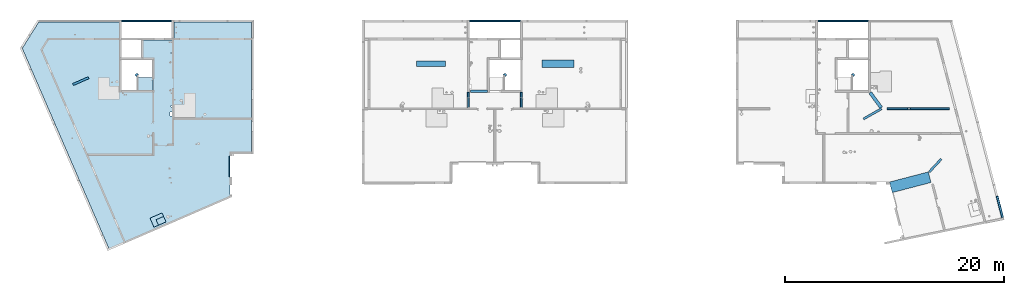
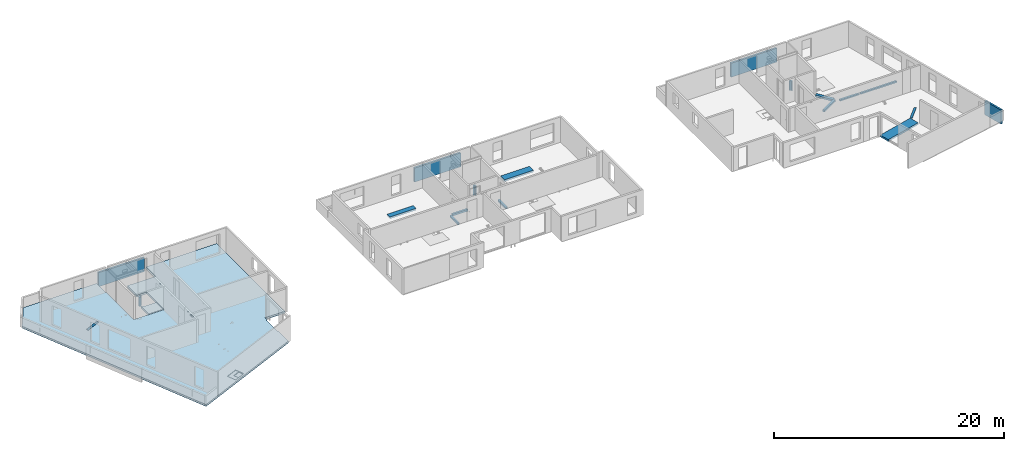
# One storey, part 1 of 28: 16 beams, 3 columns, 2 slabs, 6 openings.
"""IFC2X3 building model written with IfcOpenShell, lengths in centimetres."""

from ifc_helpers import new_model, entity, si_unit, converted_unit, derived_unit, direction, frame, frame_2d, origin, origin_2d_with_axis, place, context, subcontext, project, spatial, polyline, circle_curve, parameter, trimmed, segment, composite_curve, rectangle, circle, outline, extrude, clip, halfspace, face_set, faceted_brep, surface_model, source, transform, mapped, material, layer, layer_set, layer_usage, type_object, type_shapes, element, save


model = new_model("IFC2X3")

# Units and contexts
model_context = context("Model", 3, precision=0.001, world=origin(), true_north=direction((6.12303176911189e-17, 1.0)))
body_context = subcontext(model_context, "Body", "Model", "MODEL_VIEW")
ifc_project = project(units=[si_unit("LENGTHUNIT", "METRE", prefix="CENTI"), si_unit("AREAUNIT", "SQUARE_METRE"), si_unit("VOLUMEUNIT", "CUBIC_METRE"), converted_unit("PLANEANGLEUNIT", "DEGREE", entity("IfcRatioMeasure", 0.0174532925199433), si_unit("PLANEANGLEUNIT", "RADIAN"), dimensions=[0, 0, 0, 0, 0, 0, 0]), si_unit("MASSUNIT", "GRAM", prefix="KILO"), derived_unit("MASSDENSITYUNIT", [(si_unit("MASSUNIT", "GRAM", prefix="KILO"), 1), (si_unit("LENGTHUNIT", "METRE"), -3)]), si_unit("TIMEUNIT", "SECOND"), si_unit("FREQUENCYUNIT", "HERTZ"), si_unit("THERMODYNAMICTEMPERATUREUNIT", "DEGREE_CELSIUS"), derived_unit("THERMALTRANSMITTANCEUNIT", [(si_unit("MASSUNIT", "GRAM", prefix="KILO"), 1), (si_unit("THERMODYNAMICTEMPERATUREUNIT", "KELVIN"), -1), (si_unit("TIMEUNIT", "SECOND"), -3)]), derived_unit("VOLUMETRICFLOWRATEUNIT", [(si_unit("LENGTHUNIT", "METRE"), 3), (si_unit("TIMEUNIT", "SECOND"), -1)]), si_unit("ELECTRICCURRENTUNIT", "AMPERE"), si_unit("ELECTRICVOLTAGEUNIT", "VOLT"), si_unit("POWERUNIT", "WATT"), si_unit("FORCEUNIT", "NEWTON"), si_unit("ILLUMINANCEUNIT", "LUX"), si_unit("LUMINOUSFLUXUNIT", "LUMEN"), si_unit("LUMINOUSINTENSITYUNIT", "CANDELA"), derived_unit("USERDEFINED", [(si_unit("MASSUNIT", "GRAM", prefix="KILO"), -1), (si_unit("LENGTHUNIT", "METRE"), -2), (si_unit("TIMEUNIT", "SECOND"), 3), (si_unit("LUMINOUSFLUXUNIT", "LUMEN"), 1)]), derived_unit("LINEARVELOCITYUNIT", [(si_unit("LENGTHUNIT", "METRE"), 1), (si_unit("TIMEUNIT", "SECOND"), -1)]), si_unit("PRESSUREUNIT", "PASCAL"), derived_unit("USERDEFINED", [(si_unit("LENGTHUNIT", "METRE"), -2), (si_unit("MASSUNIT", "GRAM", prefix="KILO"), 1), (si_unit("TIMEUNIT", "SECOND"), -2)])], contexts=[model_context])

# Site, building, storey
site_placement = place(None, origin())
site = spatial("IfcSite", under=ifc_project, at=site_placement, Name="Default", CompositionType="ELEMENT")
building_placement = place(site_placement, origin())
building = spatial("IfcBuilding", under=site, at=building_placement, Name="CAGE 03", CompositionType="ELEMENT")
storey_placement = place(building_placement, frame((0.0, 0.0, 1420.0)))
storey = spatial("IfcBuildingStorey", under=building, at=storey_placement, Name="R+5", CompositionType="ELEMENT", Elevation=1420.0)

# Columns
ifc_material_1 = material(Name="Béton, panneaux préfa 30/37")
column_type_1 = type_object("IfcColumnType", Name="Ø30", PredefinedType="COLUMN", material=ifc_material_1)
shared_shape_1 = source(origin(), body_context, "Body", "SweptSolid", [
    extrude(outline(composite_curve([segment(trimmed(circle_curve(frame_2d((5.0, -5.0), x_axis=(0.0, 1.0)), 15.0), [parameter(89.9999999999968)], [parameter(0.0)], True, "PARAMETER"), True, "CONTINUOUS"), segment(polyline([(5.0, 10.0), (5.0, -5.0)]), True, "CONTINUOUS"), segment(polyline([(5.0, -5.0), (-10.0, -5.0)]), True, "CONTINUOUS")], self_intersect=False)), frame((3818.36582014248, 4786.66066607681, 1420.0), z_axis=(0.0, 0.0, -1.0), x_axis=(0.0, 1.0, 0.0)), (0.0, 0.0, -1.0), 80.0000000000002),
    extrude(outline(composite_curve([segment(trimmed(circle_curve(frame_2d((5.0, -5.0), x_axis=(0.0, 1.0)), 15.0), [parameter(89.9999999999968)], [parameter(0.0)], True, "PARAMETER"), True, "CONTINUOUS"), segment(polyline([(5.0, 10.0), (5.0, -5.0)]), True, "CONTINUOUS"), segment(polyline([(5.0, -5.0), (-10.0, -5.0)]), True, "CONTINUOUS")], self_intersect=False)), frame((3818.36582014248, 4786.66066607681, 1500.0), z_axis=(0.0, 0.0, -1.0), x_axis=(0.0, 1.0, 0.0)), (0.0, 0.0, -1.0), 20.0),
])
type_shapes(column_type_1, [shared_shape_1])
column_1_placement = place(storey_placement, frame((0.0, 0.0, -1420.0)))
element("IfcColumn", 1, at=column_1_placement, inside=storey, type_object=column_type_1, material=ifc_material_1, Name="BBGO-Poteau circ:Ø30", ObjectType="Ø30", context=body_context, shape_type="MappedRepresentation", body=[
    mapped(shared_shape_1, transform((0.0, 0.0, 0.0), scale=1.0)),
])
column_type_2 = type_object("IfcColumnType", Name="Ø30", PredefinedType="COLUMN", material=ifc_material_1)
shared_shape_2 = source(origin(), body_context, "Body", "SweptSolid", [
    extrude(outline(composite_curve([segment(trimmed(circle_curve(frame_2d((5.0, -5.0), x_axis=(0.0, 1.0)), 14.9999999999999), [parameter(89.9999999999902)], [parameter(0.0)], True, "PARAMETER"), True, "CONTINUOUS"), segment(polyline([(5.0, 10.0), (5.0, -5.0)]), True, "CONTINUOUS"), segment(polyline([(5.0, -5.0), (-10.0, -5.0)]), True, "CONTINUOUS")], self_intersect=False)), frame((7167.36582014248, 4786.66066607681, 1420.0), z_axis=(0.0, 0.0, -1.0), x_axis=(1.0, 0.0, 0.0)), (0.0, 0.0, -1.0), 80.0000000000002),
    extrude(outline(composite_curve([segment(trimmed(circle_curve(frame_2d((5.0, -5.0), x_axis=(0.0, 1.0)), 14.9999999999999), [parameter(89.9999999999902)], [parameter(0.0)], True, "PARAMETER"), True, "CONTINUOUS"), segment(polyline([(5.0, 10.0), (5.0, -5.0)]), True, "CONTINUOUS"), segment(polyline([(5.0, -5.0), (-10.0, -5.0)]), True, "CONTINUOUS")], self_intersect=False)), frame((7167.36582014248, 4786.66066607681, 1500.0), z_axis=(0.0, 0.0, -1.0), x_axis=(1.0, 0.0, 0.0)), (0.0, 0.0, -1.0), 20.0),
])
type_shapes(column_type_2, [shared_shape_2])
column_2_placement = place(storey_placement, frame((0.0, 0.0, -1420.0)))
element("IfcColumn", 2, at=column_2_placement, inside=storey, type_object=column_type_2, material=ifc_material_1, Name="BBGO-Poteau circ:Ø30", ObjectType="Ø30", context=body_context, shape_type="MappedRepresentation", body=[
    mapped(shared_shape_2, transform((0.0, 0.0, 0.0), scale=1.0)),
])
column_type_3 = type_object("IfcColumnType", Name="Ø30", PredefinedType="COLUMN", material=ifc_material_1)
shared_shape_3 = source(origin(), body_context, "Body", "SweptSolid", [
    extrude(outline(composite_curve([segment(trimmed(circle_curve(frame_2d((5.0, -5.0), x_axis=(0.0, 1.0)), 14.9999999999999), [parameter(90.0000000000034)], [parameter(0.0)], True, "PARAMETER"), True, "CONTINUOUS"), segment(polyline([(5.0, 10.0), (5.0, -5.0)]), True, "CONTINUOUS"), segment(polyline([(5.0, -5.0), (-10.0, -5.0)]), True, "CONTINUOUS")], self_intersect=False)), frame((10344.3658201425, 4786.66066607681, 1420.0), z_axis=(0.0, 0.0, -1.0), x_axis=(1.0, 0.0, 0.0)), (0.0, 0.0, -1.0), 80.0000000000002),
    extrude(outline(composite_curve([segment(trimmed(circle_curve(frame_2d((5.0, -5.0), x_axis=(0.0, 1.0)), 14.9999999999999), [parameter(90.0000000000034)], [parameter(0.0)], True, "PARAMETER"), True, "CONTINUOUS"), segment(polyline([(5.0, 10.0), (5.0, -5.0)]), True, "CONTINUOUS"), segment(polyline([(5.0, -5.0), (-10.0, -5.0)]), True, "CONTINUOUS")], self_intersect=False)), frame((10344.3658201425, 4786.66066607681, 1500.0), z_axis=(0.0, 0.0, -1.0), x_axis=(1.0, 0.0, 0.0)), (0.0, 0.0, -1.0), 20.0),
])
type_shapes(column_type_3, [shared_shape_3])
column_3_placement = place(storey_placement, frame((0.0, 0.0, -1420.0)))
element("IfcColumn", 3, at=column_3_placement, inside=storey, type_object=column_type_3, material=ifc_material_1, Name="BBGO-Poteau circ:Ø30", ObjectType="Ø30", context=body_context, shape_type="MappedRepresentation", body=[
    mapped(shared_shape_3, transform((0.0, 0.0, 0.0), scale=1.0)),
])

# Beams
ifc_material_2 = material(Name="Béton, C25/30")
beam_type_1 = type_object("IfcBeamType", Name="BBGO-Poutre rect:18x149ht", PredefinedType="BEAM")
beam_1_placement = place(storey_placement, frame((3663.36582014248, 5284.66066607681, 0.0)))
element("IfcBeam", 4, at=beam_1_placement, inside=storey, type_object=beam_type_1, material=ifc_material_2, Name="BBGO-Poutre rect:18x149ht", ObjectType="BBGO-Poutre rect:18x149ht", context=body_context, shape_type="SweptSolid", body=[
    extrude(rectangle(XDim=149.0, YDim=17.9999999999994, at=frame_2d((0.0, 1.73283609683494e-12), x_axis=(1.0, 0.0))), frame((9.0, 0.0, 30.4999999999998), z_axis=(1.0, 0.0, 0.0), x_axis=(0.0, 0.0, -1.0)), (0.0, 0.0, 1.0), 461.999999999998),
])
beam_2_placement = place(storey_placement, frame((6840.36582014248, 5284.6606660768, 0.0)))
element("IfcBeam", 5, at=beam_2_placement, inside=storey, type_object=beam_type_1, material=ifc_material_2, Name="BBGO-Poutre rect:18x149ht", ObjectType="BBGO-Poutre rect:18x149ht", context=body_context, shape_type="SweptSolid", body=[
    extrude(rectangle(XDim=149.0, YDim=17.9999999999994, at=frame_2d((0.0, 1.73283609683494e-12), x_axis=(1.0, 0.0))), frame((9.0, 0.0, 30.4999999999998), z_axis=(1.0, 0.0, 0.0), x_axis=(0.0, 0.0, -1.0)), (0.0, 0.0, 1.0), 464.0),
])
beam_3_placement = place(storey_placement, frame((10019.3658201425, 5284.66066607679, 0.0)))
element("IfcBeam", 6, at=beam_3_placement, inside=storey, type_object=beam_type_1, material=ifc_material_2, Name="BBGO-Poutre rect:18x149ht", ObjectType="BBGO-Poutre rect:18x149ht", context=body_context, shape_type="SweptSolid", body=[
    extrude(rectangle(XDim=149.0, YDim=17.9999999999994, at=frame_2d((0.0, 1.73283609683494e-12), x_axis=(1.0, 0.0))), frame((9.0, 0.0, 30.4999999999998), z_axis=(1.0, 0.0, 0.0), x_axis=(0.0, 0.0, -1.0)), (0.0, 0.0, 1.0), 462.000000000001),
])
beam_4_placement = place(storey_placement, frame((11662.375264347, 3693.62398338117, 0.0), z_axis=(0.0, 0.0, 1.0), x_axis=(0.252679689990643, -0.96754998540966, 0.0)))
element("IfcBeam", 7, at=beam_4_placement, inside=storey, type_object=beam_type_1, material=ifc_material_2, Name="BBGO-Poutre rect:18x149ht", ObjectType="BBGO-Poutre rect:18x149ht", context=body_context, shape_type="Clipping", body=[
    clip(extrude(rectangle(XDim=149.0, YDim=18.0000000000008, at=frame_2d((0.0, 2.73381317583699e-12), x_axis=(1.0, 0.0))), frame((9.0, 0.0, 30.4999999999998), z_axis=(1.0, 0.0, 0.0), x_axis=(0.0, 0.0, -1.0)), (0.0, 0.0, 1.0), 204.587793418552), halfspace(frame((171.771995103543, -791.479812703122, -270.0), z_axis=(0.998638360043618, -0.0521672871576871, 0.0), x_axis=(-0.0521672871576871, -0.998638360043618, 0.0)), False)),
])
beam_type_2 = type_object("IfcBeamType", Name="20x20ht", PredefinedType="BEAM", material=ifc_material_2)
shared_shape_4 = source(origin(), body_context, "Body", "SurfaceModel", [
    surface_model("IfcFaceBasedSurfaceModel", [(0.0, 18.3053501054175, 20.0), (8.05693226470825, 0.0, 20.0), (8.05693226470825, 0.0, 0.0), (0.0, 18.3053501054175, 0.0), (142.0, 80.8053501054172, 20.0), (150.056932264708, 62.5000000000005, 20.0), (150.056932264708, 62.5000000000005, 0.0), (142.0, 80.8053501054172, 0.0)], [face_set([[[0, 1, 2, 3]], [[4, 5, 6, 7]], [[3, 0, 4, 7]], [[2, 3, 7, 6]], [[1, 2, 6, 5]], [[0, 1, 5, 4]]])]),
])
type_shapes(beam_type_2, [shared_shape_4])
beam_5_placement = place(storey_placement, frame((3227.33735401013, 4695.5079910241, -20.0)))
element("IfcBeam", 8, at=beam_5_placement, inside=storey, type_object=beam_type_2, material=ifc_material_2, Name="BBGO-Poutre rect:20x20ht", ObjectType="20x20ht", context=body_context, shape_type="MappedRepresentation", body=[
    mapped(shared_shape_4, transform((0.0, 0.0, 0.0), scale=1.0)),
])
beam_type_3 = type_object("IfcBeamType", Name="70x20ht", PredefinedType="BEAM", material=ifc_material_2)
shared_shape_5 = source(origin(), body_context, "Body", "Brep", [
    faceted_brep([(291.5, 0.0, 20.0), (291.5, 0.0, 0.0), (291.5, 70.0, 0.0), (291.5, 70.0, 20.0), (0.0, 0.0, 20.0), (0.0, 70.0, 20.0), (0.0, 70.0, 0.0), (0.0, 0.0, 0.0)], [[[0, 1, 2, 3]], [[4, 5, 6, 7]], [[1, 0, 4, 7]], [[2, 1, 7, 6]], [[3, 2, 6, 5]], [[0, 3, 5, 4]]]),
])
type_shapes(beam_type_3, [shared_shape_5])
beam_6_placement = place(storey_placement, frame((7512.36582014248, 4860.6606660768, -20.0)))
element("IfcBeam", 9, at=beam_6_placement, inside=storey, type_object=beam_type_3, material=ifc_material_2, Name="BBGO-Poutre rect:70x20ht", ObjectType="70x20ht", context=body_context, shape_type="MappedRepresentation", body=[
    mapped(shared_shape_5, transform((0.0, 0.0, 0.0), scale=1.0)),
])
beam_type_4 = type_object("IfcBeamType", Name="50x20ht", PredefinedType="BEAM", material=ifc_material_2)
shared_shape_6 = source(origin(), body_context, "Body", "Brep", [
    faceted_brep([(263.0, 0.0, 20.0), (263.0, 0.0, 0.0), (263.0, 50.0, 0.0), (263.0, 50.0, 20.0), (0.0, 0.0, 20.0), (0.0, 50.0, 20.0), (0.0, 50.0, 0.0), (0.0, 0.0, 0.0)], [[[0, 1, 2, 3]], [[4, 5, 6, 7]], [[1, 0, 4, 7]], [[2, 1, 7, 6]], [[3, 2, 6, 5]], [[0, 3, 5, 4]]]),
])
type_shapes(beam_type_4, [shared_shape_6])
beam_7_placement = place(storey_placement, frame((6367.36582014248, 4870.6606660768, -20.0)))
element("IfcBeam", 10, at=beam_7_placement, inside=storey, type_object=beam_type_4, material=ifc_material_2, Name="BBGO-Poutre rect:50x20ht", ObjectType="50x20ht", context=body_context, shape_type="MappedRepresentation", body=[
    mapped(shared_shape_6, transform((0.0, 0.0, 0.0), scale=1.0)),
])
beam_type_5 = type_object("IfcBeamType", Name="18x20ht", PredefinedType="BEAM", material=ifc_material_2)
shared_shape_7 = source(origin(), body_context, "Body", "Brep", [
    faceted_brep([(18.0, 140.0, 20.0), (18.0, 140.0, 0.0), (0.0, 140.0, 0.0), (0.0, 140.0, 20.0), (18.0, 0.0, 20.0), (0.0, 0.0, 20.0), (0.0, 0.0, 0.0), (18.0, 0.0, 0.0)], [[[0, 1, 2, 3]], [[4, 5, 6, 7]], [[1, 0, 4, 7]], [[2, 1, 7, 6]], [[3, 2, 6, 5]], [[0, 3, 5, 4]]]),
])
type_shapes(beam_type_5, [shared_shape_7])
beam_8_placement = place(storey_placement, frame((7313.36582014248, 4492.6606660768, -20.0)))
element("IfcBeam", 11, at=beam_8_placement, inside=storey, type_object=beam_type_5, material=ifc_material_2, Name="BBGO-Poutre rect:18x20ht", ObjectType="18x20ht", context=body_context, shape_type="MappedRepresentation", body=[
    mapped(shared_shape_7, transform((0.0, 0.0, 0.0), scale=1.0)),
])
beam_type_6 = type_object("IfcBeamType", Name="18x20ht", PredefinedType="BEAM", material=ifc_material_2)
shared_shape_8 = source(origin(), body_context, "Body", "Brep", [
    faceted_brep([(18.0, 140.0, 20.0), (18.0, 140.0, 0.0), (0.0, 140.0, 0.0), (0.0, 140.0, 20.0), (18.0, 0.0, 20.0), (0.0, 0.0, 20.0), (0.0, 0.0, 0.0), (18.0, 0.0, 0.0)], [[[0, 1, 2, 3]], [[4, 5, 6, 7]], [[1, 0, 4, 7]], [[2, 1, 7, 6]], [[3, 2, 6, 5]], [[0, 3, 5, 4]]]),
])
type_shapes(beam_type_6, [shared_shape_8])
beam_9_placement = place(storey_placement, frame((6831.36582014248, 4492.6606660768, -20.0)))
element("IfcBeam", 12, at=beam_9_placement, inside=storey, type_object=beam_type_6, material=ifc_material_2, Name="BBGO-Poutre rect:18x20ht", ObjectType="18x20ht", context=body_context, shape_type="MappedRepresentation", body=[
    mapped(shared_shape_8, transform((0.0, 0.0, 0.0), scale=1.0)),
])
beam_type_7 = type_object("IfcBeamType", Name="30x20ht", PredefinedType="BEAM", material=ifc_material_2)
shared_shape_9 = source(origin(), body_context, "Body", "SurfaceModel", [
    surface_model("IfcFaceBasedSurfaceModel", [(100.827219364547, 0.0, 20.0), (100.827219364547, 0.0, 0.0), (125.046144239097, 17.7043406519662, 0.0), (125.046144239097, 17.7043406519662, 20.0), (0.0, 137.928144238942, 20.0), (24.2189248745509, 155.632484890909, 20.0), (24.2189248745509, 155.632484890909, 0.0), (0.0, 137.928144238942, 0.0)], [face_set([[[0, 1, 2, 3]], [[4, 5, 6, 7]], [[1, 7, 4, 0]], [[2, 1, 7, 6]], [[3, 2, 6, 5]], [[0, 3, 5, 4]]])]),
])
type_shapes(beam_type_7, [shared_shape_9])
beam_10_placement = place(storey_placement, frame((10495.3500244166, 4483.80849575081, -20.0)))
element("IfcBeam", 13, at=beam_10_placement, inside=storey, type_object=beam_type_7, material=ifc_material_2, Name="BBGO-Poutre rect:30x20ht", ObjectType="30x20ht", context=body_context, shape_type="MappedRepresentation", body=[
    mapped(shared_shape_9, transform((0.0, 0.0, 0.0), scale=1.0)),
])
beam_type_8 = type_object("IfcBeamType", Name="BBGO-Poutre rect:18x35ht", PredefinedType="BEAM")
beam_11_placement = place(storey_placement, frame((10661.8658201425, 4474.50191607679, -35.0)))
element("IfcBeam", 14, at=beam_11_placement, inside=storey, type_object=beam_type_8, material=ifc_material_2, Name="BBGO-Poutre rect:18x35ht", ObjectType="BBGO-Poutre rect:18x35ht", context=body_context, shape_type="Brep", body=[
    faceted_brep([(195.141101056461, 0.158750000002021, 0.0), (195.141101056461, 0.158750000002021, 15.0), (0.0, 0.158750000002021, 15.0), (0.0, 0.158750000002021, 0.0), (192.531752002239, 1.98633619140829, 0.0), (0.0, 18.1587500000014, 0.0), (195.141101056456, 18.1587500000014, 0.0), (192.531752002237, 16.3311638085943, 0.0), (190.629594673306, 13.775665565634, 0.0), (189.627674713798, 10.7516070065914, 0.0), (189.627674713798, 7.56589299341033, 0.0), (190.629594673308, 4.54183443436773, 0.0), (195.141101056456, 18.1587500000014, 15.0), (0.0, 18.1587500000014, 15.0), (192.531752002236, 16.3311638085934, 15.0), (190.629594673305, 13.7756655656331, 15.0), (189.627674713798, 10.7516070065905, 15.0), (189.627674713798, 7.56589299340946, 15.0), (190.629594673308, 4.54183443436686, 15.0), (192.531752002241, 1.98633619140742, 15.0)], [[[0, 1, 2, 3]], [[4, 0, 3, 5, 6, 7, 8, 9, 10, 11]], [[12, 6, 5, 13]], [[12, 14, 7, 6]], [[15, 16, 9, 8]], [[14, 15, 8, 7]], [[16, 17, 10, 9]], [[17, 18, 11, 10]], [[19, 1, 0, 4]], [[18, 19, 4, 11]], [[13, 2, 1, 19, 18, 17, 16, 15, 14, 12]], [[3, 2, 13, 5]]]),
])
beam_12_placement = place(storey_placement, frame((10865.565969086, 4474.50191607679, -35.0)))
element("IfcBeam", 15, at=beam_12_placement, inside=storey, type_object=beam_type_8, material=ifc_material_2, Name="BBGO-Poutre rect:18x35ht", ObjectType="BBGO-Poutre rect:18x35ht", context=body_context, shape_type="Brep", body=[
    faceted_brep([(364.79985105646, 0.158750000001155, 0.0), (364.79985105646, 0.158750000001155, 15.0), (0.158749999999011, 0.158750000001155, 15.0), (0.158750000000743, 0.158750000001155, 0.0), (2.76809905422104, 1.98633619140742, 0.0), (4.67025638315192, 4.54183443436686, 0.0), (5.67217634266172, 7.56589299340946, 0.0), (5.67217634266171, 10.7516070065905, 0.0), (4.67025638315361, 13.7756655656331, 0.0), (2.76809905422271, 16.3311638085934, 0.0), (0.15875000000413, 18.1587500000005, 0.0), (364.79985105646, 18.1587500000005, 0.0), (364.79985105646, 18.1587500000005, 15.0), (0.15875000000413, 18.1587500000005, 15.0), (2.76809905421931, 1.98633619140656, 15.0), (4.67025638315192, 4.541834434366, 15.0), (5.67217634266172, 7.5658929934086, 15.0), (5.67217634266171, 10.7516070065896, 15.0), (4.67025638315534, 13.7756655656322, 15.0), (2.76809905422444, 16.3311638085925, 15.0)], [[[0, 1, 2, 3]], [[0, 3, 4, 5, 6, 7, 8, 9, 10, 11]], [[12, 11, 10, 13]], [[4, 3, 2, 14]], [[15, 16, 6, 5]], [[5, 4, 14, 15]], [[16, 17, 7, 6]], [[17, 18, 8, 7]], [[19, 13, 10, 9]], [[18, 19, 9, 8]], [[18, 17, 16, 15, 14, 2, 1, 12, 13, 19]], [[0, 11, 12, 1]]]),
])
beam_type_9 = type_object("IfcBeamType", Name="20x20ht", PredefinedType="BEAM", material=ifc_material_2)
shared_shape_10 = source(origin(), body_context, "Body", "SurfaceModel", [
    surface_model("IfcFaceBasedSurfaceModel", [(123.564687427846, 117.609640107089, 20.0), (123.564687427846, 117.609640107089, 0.0), (108.888920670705, 131.197203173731, 0.0), (108.888920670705, 131.197203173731, 20.0), (14.6757667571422, 0.0, 20.0), (14.6757667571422, 0.0, 0.0), (0.0, 13.5875630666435, 0.0), (0.0, 13.5875630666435, 20.0)], [face_set([[[0, 1, 2, 3]], [[4, 5, 6, 7]], [[1, 0, 4, 5]], [[2, 1, 5, 6]], [[3, 2, 6, 7]], [[0, 3, 7, 4]]])]),
])
type_shapes(beam_type_9, [shared_shape_10])
beam_13_placement = place(storey_placement, frame((11039.6390160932, 3900.25724443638, -20.0)))
element("IfcBeam", 16, at=beam_13_placement, inside=storey, type_object=beam_type_9, material=ifc_material_2, Name="BBGO-Poutre rect:20x20ht", ObjectType="20x20ht", context=body_context, shape_type="MappedRepresentation", body=[
    mapped(shared_shape_10, transform((0.0, 0.0, 0.0), scale=1.0)),
])
beam_type_10 = type_object("IfcBeamType", Name="100x20ht", PredefinedType="BEAM", material=ifc_material_2)
shared_shape_11 = source(origin(), body_context, "Body", "SurfaceModel", [
    surface_model("IfcFaceBasedSurfaceModel", [(379.391263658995, 92.4807665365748, 20.0), (379.391263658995, 92.4807665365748, 0.0), (354.123294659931, 189.235765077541, 0.0), (354.123294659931, 189.235765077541, 20.0), (25.2679689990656, 0.0, 20.0), (25.2679689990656, 0.0, 0.0), (0.0, 96.7549985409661, 0.0), (0.0, 96.7549985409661, 20.0)], [face_set([[[0, 1, 2, 3]], [[4, 5, 6, 7]], [[1, 0, 4, 5]], [[2, 1, 5, 6]], [[3, 2, 6, 7]], [[0, 3, 7, 4]]])]),
])
type_shapes(beam_type_10, [shared_shape_11])
beam_14_placement = place(storey_placement, frame((10683.5281497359, 3717.90566753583, -20.0)))
element("IfcBeam", 17, at=beam_14_placement, inside=storey, type_object=beam_type_10, material=ifc_material_2, Name="BBGO-Poutre rect:100x20ht", ObjectType="100x20ht", context=body_context, shape_type="MappedRepresentation", body=[
    mapped(shared_shape_11, transform((0.0, 0.0, 0.0), scale=1.0)),
])
beam_type_11 = type_object("IfcBeamType", Name="20x20ht", PredefinedType="BEAM", material=ifc_material_2)
shared_shape_12 = source(origin(), body_context, "Body", "SurfaceModel", [
    surface_model("IfcFaceBasedSurfaceModel", [(174.257652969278, 93.0, 20.0), (174.257652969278, 93.0, 0.0), (164.410714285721, 110.407980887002, 0.0), (164.410714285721, 110.407980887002, 20.0), (9.84693868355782, 0.0, 20.0), (9.84693868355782, 0.0, 0.0), (0.0, 17.4079808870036, 0.0), (0.0, 17.4079808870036, 20.0)], [face_set([[[0, 1, 2, 3]], [[4, 5, 6, 7]], [[1, 0, 4, 5]], [[2, 1, 5, 6]], [[3, 2, 6, 7]], [[0, 3, 7, 4]]])]),
])
type_shapes(beam_type_11, [shared_shape_12])
beam_15_placement = place(storey_placement, frame((10441.4423508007, 4381.95667563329, -20.0)))
element("IfcBeam", 18, at=beam_15_placement, inside=storey, type_object=beam_type_11, material=ifc_material_2, Name="BBGO-Poutre rect:20x20ht", ObjectType="20x20ht", context=body_context, shape_type="MappedRepresentation", body=[
    mapped(shared_shape_12, transform((0.0, 0.0, 0.0), scale=1.0)),
])
beam_type_12 = type_object("IfcBeamType", Name="20x20ht", PredefinedType="BEAM", material=ifc_material_2)
shared_shape_13 = source(origin(), body_context, "Body", "Brep", [
    faceted_brep([(154.0, 0.0, 20.0), (154.0, 0.0, 0.0), (154.0, 20.0, 0.0), (154.0, 20.0, 20.0), (0.0, 0.0, 20.0), (0.0, 20.0, 20.0), (0.0, 20.0, 0.0), (0.0, 0.0, 0.0)], [[[0, 1, 2, 3]], [[4, 5, 6, 7]], [[1, 0, 4, 7]], [[2, 1, 7, 6]], [[3, 2, 6, 5]], [[0, 3, 5, 4]]]),
])
type_shapes(beam_type_12, [shared_shape_13])
beam_16_placement = place(storey_placement, frame((6859.36582014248, 4632.6606660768, -20.0)))
element("IfcBeam", 19, at=beam_16_placement, inside=storey, type_object=beam_type_12, material=ifc_material_2, Name="BBGO-Poutre rect:20x20ht", ObjectType="20x20ht", context=body_context, shape_type="MappedRepresentation", body=[
    mapped(shared_shape_13, transform((0.0, 0.0, 0.0), scale=1.0)),
])

# Slab, openings
ifc_layer = layer(ifc_material_2, 20.0)
ifc_layer_set = layer_set([ifc_layer], Name="Sol:Dalle Béton - 20 cm")
ifc_layer_usage_1 = layer_usage(ifc_layer_set, "AXIS3", "POSITIVE", 0.0)
slab_1_placement = place(storey_placement, frame((2767.3065813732, 3205.79894432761, -20.0)))
slab_1 = element("IfcSlab", 20, at=slab_1_placement, inside=storey, material=ifc_layer_usage_1, Name="Sol:Dalle Béton - 20 cm", ObjectType="Sol:Dalle Béton - 20 cm", PredefinedType="FLOOR", context=body_context, shape_type="SweptSolid", body=[
    extrude(outline(polyline([(159.470380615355, 1034.9308608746), (159.470380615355, 869.930860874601), (153.970380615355, 869.930860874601), (153.970380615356, 397.430860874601), (-153.029619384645, 397.430860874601), (-153.029619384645, 704.430860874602), (-53.5296193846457, 704.430860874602), (-53.5296193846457, 869.9308608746), (-338.529619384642, 869.9308608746), (-338.529619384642, 1034.9308608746), (-1046.52961938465, 1034.9308608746), (-1046.52961938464, -150.569139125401), (-848.529619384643, -150.569139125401), (-848.529619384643, -557.490172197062), (254.908165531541, -1034.9308608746), (1046.52961938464, 794.626284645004), (895.631312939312, 1034.9308608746), (159.470380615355, 1034.9308608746)])), frame((1046.52961938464, 1034.9308608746, 20.0), z_axis=(0.0, 0.0, -1.0), x_axis=(-1.0, 0.0, 0.0)), (0.0, 0.0, 1.0), 20.0),
])
opening_1_placement = place(slab_1_placement, origin())
element("IfcOpeningElement", 21, at=opening_1_placement, cuts=slab_1, ObjectType="Opening", context=body_context, shape_type="SweptSolid", body=[
    extrude(rectangle(XDim=195.0, YDim=26.0000000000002, at=origin_2d_with_axis()), frame((1900.05923876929, 750.861721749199, 8.0), z_axis=(0.0, 0.0, 1.0), x_axis=(0.0, 1.0, 0.0)), (0.0, 0.0, 1.0), 11.9999999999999),
])
opening_2_placement = place(slab_1_placement, origin())
element("IfcOpeningElement", 22, at=opening_2_placement, cuts=slab_1, ObjectType="Opening", context=body_context, shape_type="SweptSolid", body=[
    extrude(rectangle(XDim=90.0000000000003, YDim=120.000000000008, at=origin_2d_with_axis()), frame((1239.45523312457, 261.870494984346, 17.0), z_axis=(0.0, 0.0, 1.0), x_axis=(0.397106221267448, -0.917772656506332, 0.0)), (0.0, 0.0, 1.0), 13.9999999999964),
])
opening_3_placement = place(slab_1_placement, origin())
element("IfcOpeningElement", 23, at=opening_3_placement, cuts=slab_1, ObjectType="Opening", context=body_context, shape_type="SweptSolid", body=[
    extrude(rectangle(XDim=55.0000000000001, YDim=75.0000000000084, at=origin_2d_with_axis()), frame((1267.05447676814, 254.744363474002, 10.0), z_axis=(0.0, 0.0, 1.0), x_axis=(0.397106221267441, -0.917772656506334, 0.0)), (0.0, 0.0, 1.0), 20.9999999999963),
])
opening_4_placement = place(slab_1_placement, origin())
element("IfcOpeningElement", 24, at=opening_4_placement, cuts=slab_1, ObjectType="Opening", context=body_context, shape_type="SweptSolid", body=[
    extrude(rectangle(XDim=39.9999999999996, YDim=19.9999999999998, at=origin_2d_with_axis()), frame((1357.05923876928, 1230.3617217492, -254.327930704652), z_axis=(0.0, 0.0, 1.0), x_axis=(0.0, -1.0, 0.0)), (0.0, 0.0, 1.0), 493.425926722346),
])
opening_5_placement = place(slab_1_placement, origin())
element("IfcOpeningElement", 25, at=opening_5_placement, cuts=slab_1, ObjectType="Opening", context=body_context, shape_type="SweptSolid", body=[
    extrude(circle(Radius=5.5, at=origin_2d_with_axis()), frame((1361.55923876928, 1300.3617217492, 0.0)), (0.0, 0.0, 1.0), 20.0),
])
opening_6_placement = place(slab_1_placement, origin())
element("IfcOpeningElement", 26, at=opening_6_placement, cuts=slab_1, ObjectType="Opening", context=body_context, shape_type="SweptSolid", body=[
    extrude(circle(Radius=5.5, at=origin_2d_with_axis()), frame((1361.55923876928, 1785.8617217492, 0.0)), (0.0, 0.0, 1.0), 20.0),
])

# Slab
ifc_layer_usage_2 = layer_usage(ifc_layer_set, "AXIS3", "POSITIVE", 0.0)
slab_2_placement = place(storey_placement, origin())
element("IfcSlab", 27, at=slab_2_placement, inside=storey, material=ifc_layer_usage_2, Name="Sol:Dalle Béton - 20 cm", ObjectType="Sol:Dalle Béton - 20 cm", PredefinedType="FLOOR", context=body_context, shape_type="SweptSolid", body=[
    extrude(outline(composite_curve([segment(polyline([(-85.2340667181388, -57.407853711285), (46.2659332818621, -57.407853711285)]), True, "CONTINUOUS"), segment(trimmed(circle_curve(frame_2d((61.265933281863, -57.4078537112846), x_axis=(-1.0, 0.0)), 15.0000000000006), [parameter(309.828117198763)], [parameter(0.0)], True, "PARAMETER"), False, "CONTINUOUS"), segment(trimmed(circle_curve(frame_2d((70.189448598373, -17.4802710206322), x_axis=(-0.546347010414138, -0.837558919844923)), 33.9176653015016), [parameter(303.116761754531)], [parameter(0.0)], True, "PARAMETER"), False, "CONTINUOUS"), segment(polyline([(36.271783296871, -17.4802710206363), (36.271783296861, 89.0921462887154)]), True, "CONTINUOUS"), segment(polyline([(36.271783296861, 89.0921462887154), (-85.2340667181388, 89.0921462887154)]), True, "CONTINUOUS"), segment(polyline([(-85.2340667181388, 89.0921462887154), (-85.2340667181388, -57.407853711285)]), True, "CONTINUOUS")], self_intersect=False)), frame((3870.77367385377, 4730.39473279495, 0.0), z_axis=(0.0, 0.0, -1.0), x_axis=(0.0, 1.0, 0.0)), (0.0, 0.0, 1.0), 20.0),
])

save(model, "model.ifc")
